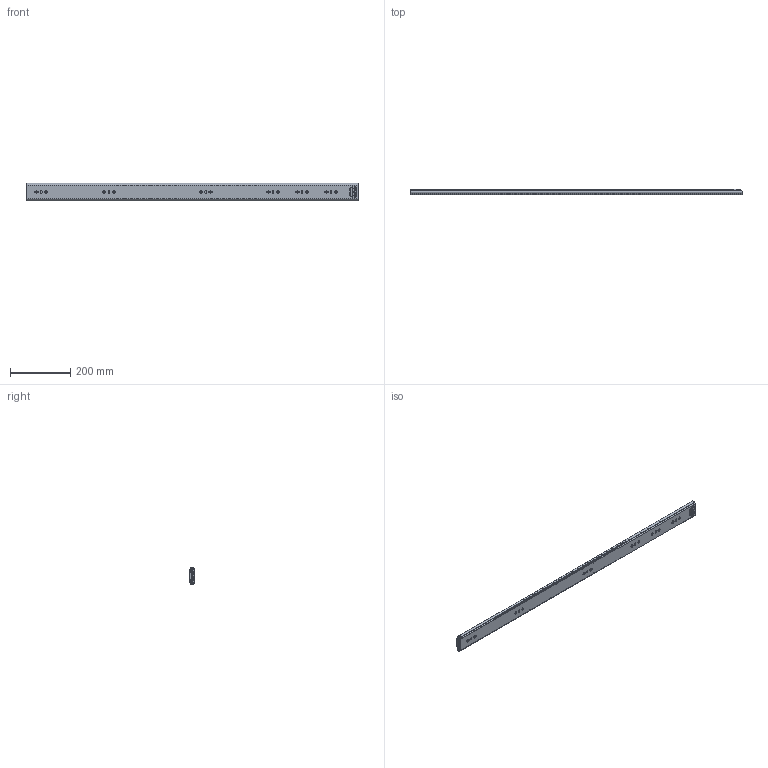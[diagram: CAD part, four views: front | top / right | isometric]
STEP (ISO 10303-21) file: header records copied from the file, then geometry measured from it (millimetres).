
FILE_DESCRIPTION((''),'2;1');
FILE_NAME('1057-02-44_ASM','2023-12-23T',('jishu015'),(''),'PRO/ENGINEER BY PARAMETRIC TECHNOLOGY CORPORATION, 2010280','PRO/ENGINEER BY PARAMETRIC TECHNOLOGY CORPORATION, 2010280','');
FILE_SCHEMA(('CONFIG_CONTROL_DESIGN'));
Products named in the file (14): KP-57-01WEIKE-18______________; 1057WEIJIAO______________; 1057DAZHUJIA-14GE______________; 1057-5-6GANZHU______________; 1057DAZHUJIA-14GE_______________ASM; KP-57-01ZHONGGUI-22_; 57-ZHONGGUIDINWEIJIAN11___; KP-57-01ZHONGGUI-22__ASM; 1057XIAOZHUJIA______________; 1057XIAOZHUJIA-14GE22__ASM; KP-57-01NEIGUI-18______________; 45TIEBACHA______________; KP-57-01NEIGUI-18_______________ASM; 1057-02-44_ASM
Assembly tree (176 placements, depth 3):
  1057-02-44_ASM
    KP-57-01WEIKE-18______________
    1057WEIJIAO______________
    1057DAZHUJIA-14GE_______________ASM
      1057DAZHUJIA-14GE______________
      1057-5-6GANZHU______________  x80
    KP-57-01ZHONGGUI-22__ASM
      KP-57-01ZHONGGUI-22_
      57-ZHONGGUIDINWEIJIAN11___
    1057XIAOZHUJIA-14GE22__ASM
      1057XIAOZHUJIA______________
      1057-5-6GANZHU______________  x84
    KP-57-01NEIGUI-18_______________ASM
      KP-57-01NEIGUI-18______________
      45TIEBACHA______________
Bounding box: 1100 x 19 x 57.67 mm (x, y, z)
Volume: 481668.9 mm3; surface area: 565778.3 mm2
Topology: 172 solids, 174 shells, 4263 faces, 11974 edges, 7392 vertices
Faces by surface type: plane 1965, cylinder 1762, sphere 336, cone 106, bspline 88, torus 6
Entity records: 132704 total; most frequent: CARTESIAN_POINT 26860, DIRECTION 22514, ORIENTED_EDGE 21964, EDGE_CURVE 10984, AXIS2_PLACEMENT_3D 7715, VECTOR 7084, LINE 7084, VERTEX_POINT 7066
